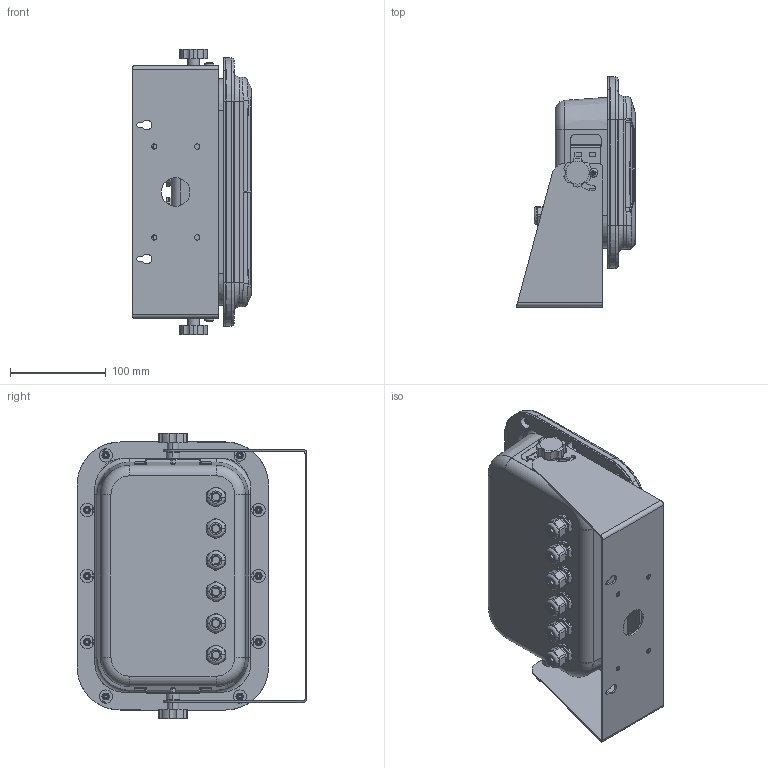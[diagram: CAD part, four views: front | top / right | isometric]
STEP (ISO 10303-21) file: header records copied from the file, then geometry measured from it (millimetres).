
FILE_DESCRIPTION((''),'1');
FILE_NAME('EILH_version-P-X.step','2025-10-28T08:23:32',(''),(''),'','','');
FILE_SCHEMA(('AUTOMOTIVE_DESIGN { 1 0 10303 214 1 1 1 1 }'));
Products named in the file (19): EILH version-P-X; EILH part 02; EILH seal 01; EILH part 04; EILH nut 01; EILH cable gland 01; EILH cable gland 02; EILH seal 02; EILH nut 02; EILH part 05; EILH part 06; EILH part 07; EILH screw 01; EILH bracket 01
Assembly tree (48 placements, depth 3):
  EILH version-P-X
    EILH part 02
    EILH seal 01
    EILH part 04
    EILH nut 01  x12
    EILH cable gland 01
      EILH cable gland 02
      EILH seal 02
      EILH nut 02
    EILH cable gland 01
      EILH cable gland 02
      EILH seal 02
      EILH nut 02
    EILH cable gland 01
      EILH cable gland 02
      EILH seal 02
      EILH nut 02
    EILH cable gland 01
      EILH cable gland 02
      EILH seal 02
      EILH nut 02
    EILH cable gland 01
      EILH cable gland 02
      EILH seal 02
      EILH nut 02
    EILH cable gland 01
      EILH cable gland 02
      EILH seal 02
      EILH nut 02
    EILH part 05  x2
    EILH part 06  x2
    EILH part 07  x2
    EILH screw 01  x2
    EILH bracket 01
Bounding box: 124.26 x 240.19 x 298 mm (x, y, z)
Volume: 397847 mm3; surface area: 528016.9 mm2
Topology: 42 solids, 72 shells, 4780 faces, 12171 edges, 7767 vertices
Faces by surface type: plane 2162, cylinder 1746, cone 456, torus 250, bspline 162, sphere 4
Entity records: 62754 total; most frequent: CARTESIAN_POINT 25288, DIRECTION 7968, ORIENTED_EDGE 7478, EDGE_CURVE 3767, AXIS2_PLACEMENT_3D 3101, VERTEX_POINT 2398, LINE 1766, VECTOR 1766
